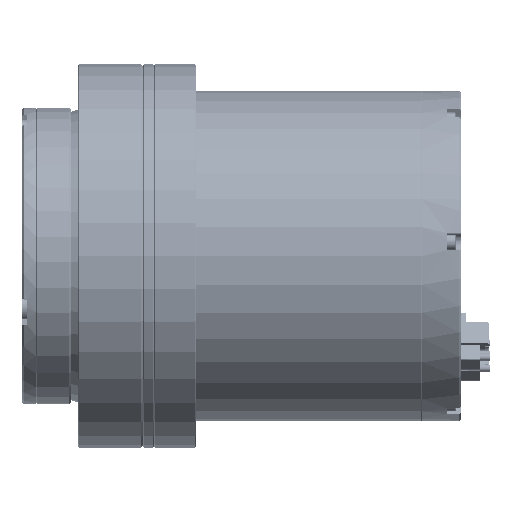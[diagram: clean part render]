
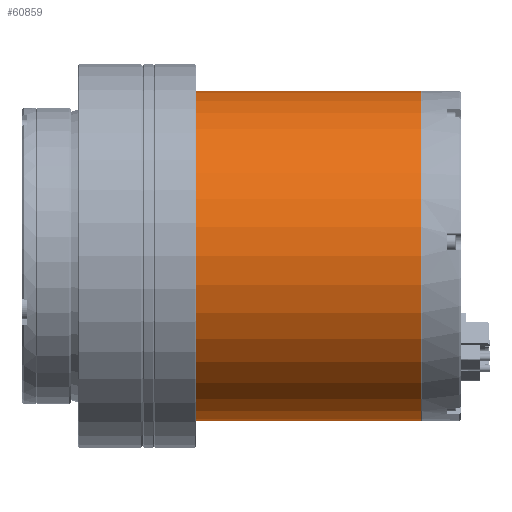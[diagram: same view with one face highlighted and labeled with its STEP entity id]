
A CAD part, left-side view. The second image highlights one B-rep face of the part: STEP entity #60859.
In plain terms, the highlighted cylindrical face has radius 47.5 mm (diameter 95 mm), a partial arc.
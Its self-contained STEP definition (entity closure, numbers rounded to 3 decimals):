
#349 = CARTESIAN_POINT ( 'NONE',  ( 0., 59.5, -47.5 ) ) ;
#3261 = AXIS2_PLACEMENT_3D ( 'NONE', #122265, #187474, #89134 ) ;
#4096 = LINE ( 'NONE', #349, #179985 ) ;
#12299 = DIRECTION ( 'NONE',  ( 0., 0., 1. ) ) ;
#15747 = FACE_OUTER_BOUND ( 'NONE', #100229, .T. ) ;
#27648 = VERTEX_POINT ( 'NONE', #207666 ) ;
#30449 = CIRCLE ( 'NONE', #200202, 47.5 ) ;
#32844 = VERTEX_POINT ( 'NONE', #198435 ) ;
#39464 = DIRECTION ( 'NONE',  ( 0., 0., -1. ) ) ;
#53161 = AXIS2_PLACEMENT_3D ( 'NONE', #103710, #71961, #39464 ) ;
#54392 = LINE ( 'NONE', #187182, #124141 ) ;
#60033 = CARTESIAN_POINT ( 'NONE',  ( 0., 46., 0. ) ) ;
#60859 = ADVANCED_FACE ( 'NONE', ( #15747 ), #163082, .T. ) ;
#67105 = VERTEX_POINT ( 'NONE', #154684 ) ;
#71961 = DIRECTION ( 'NONE',  ( 0., 1., 0. ) ) ;
#83054 = ORIENTED_EDGE ( 'NONE', *, *, #130216, .F. ) ;
#89134 = DIRECTION ( 'NONE',  ( 0., 0., -1. ) ) ;
#93762 = VERTEX_POINT ( 'NONE', #170746 ) ;
#100229 = EDGE_LOOP ( 'NONE', ( #83054, #110950, #193802, #173964 ) ) ;
#103710 = CARTESIAN_POINT ( 'NONE',  ( 0., -18.7, 0. ) ) ;
#110950 = ORIENTED_EDGE ( 'NONE', *, *, #138751, .F. ) ;
#110973 = EDGE_CURVE ( 'NONE', #27648, #67105, #198827, .T. ) ;
#120851 = EDGE_CURVE ( 'NONE', #32844, #27648, #4096, .T. ) ;
#121968 = DIRECTION ( 'NONE',  ( 0., -1., 0. ) ) ;
#122265 = CARTESIAN_POINT ( 'NONE',  ( 0., 59.5, 0. ) ) ;
#124141 = VECTOR ( 'NONE', #121968, 1000. ) ;
#130216 = EDGE_CURVE ( 'NONE', #93762, #67105, #54392, .T. ) ;
#138751 = EDGE_CURVE ( 'NONE', #32844, #93762, #30449, .T. ) ;
#154684 = CARTESIAN_POINT ( 'NONE',  ( 0., -18.7, 47.5 ) ) ;
#163082 = CYLINDRICAL_SURFACE ( 'NONE', #3261, 47.5 ) ;
#163647 = DIRECTION ( 'NONE',  ( 0., -1., 0. ) ) ;
#170746 = CARTESIAN_POINT ( 'NONE',  ( 0., 46., 47.5 ) ) ;
#173964 = ORIENTED_EDGE ( 'NONE', *, *, #110973, .T. ) ;
#179985 = VECTOR ( 'NONE', #163647, 1000. ) ;
#187182 = CARTESIAN_POINT ( 'NONE',  ( 0., 59.5, 47.5 ) ) ;
#187474 = DIRECTION ( 'NONE',  ( 0., -1., 0. ) ) ;
#193802 = ORIENTED_EDGE ( 'NONE', *, *, #120851, .T. ) ;
#198435 = CARTESIAN_POINT ( 'NONE',  ( 0., 46., -47.5 ) ) ;
#198827 = CIRCLE ( 'NONE', #53161, 47.5 ) ;
#200202 = AXIS2_PLACEMENT_3D ( 'NONE', #60033, #208232, #12299 ) ;
#207666 = CARTESIAN_POINT ( 'NONE',  ( 0., -18.7, -47.5 ) ) ;
#208232 = DIRECTION ( 'NONE',  ( 0., 1., 0. ) ) ;
